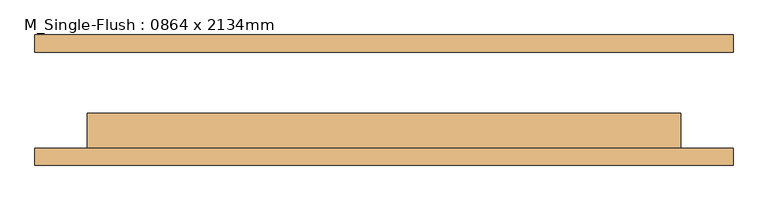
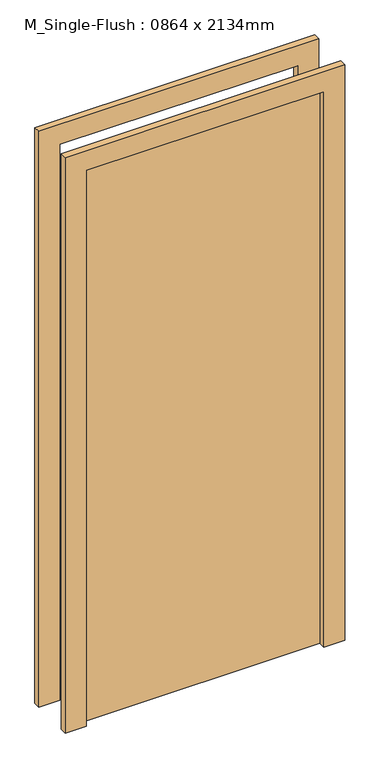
"""IFC4 building model written with IfcOpenShell, lengths in millimetres: door geometry, M_Single-Flush : 0864 x 2134mm."""

from ifc_helpers import new_model, si_unit, frame, origin, origin_with_axes, place, context, project, spatial, polyline, outline, extrude, source, transform, mapped, element, save


def m_single_flush_0864_x_2134mm_717f285b(model_context):
    return source(origin(), model_context, "Body", "SweptSolid", [
        extrude(outline(polyline([(2210.0, -508.0), (0.0, -508.0), (0.0, -432.0), (2134.0, -432.0), (2134.0, 432.0), (0.0, 432.0), (0.0, 508.0), (2210.0, 508.0), (2210.0, -508.0)])), frame((0.0, -95.0, 0.0), z_axis=(0.0, 1.0, 0.0), x_axis=(0.0, 0.0, 1.0)), (0.0, 0.0, 1.0), 25.0),
        extrude(outline(polyline([(2210.0, 508.0), (2210.0, -508.0), (0.0, -508.0), (0.0, -432.0), (2134.0, -432.0), (2134.0, 432.0), (0.0, 432.0), (0.0, 508.0), (2210.0, 508.0)])), frame((0.0, 70.0, 0.0), z_axis=(0.0, 1.0, 0.0), x_axis=(0.0, 0.0, 1.0)), (0.0, 0.0, 1.0), 25.0),
        extrude(outline(polyline([(432.0, -19.0), (432.0, -70.0), (-432.0, -70.0), (-432.0, -19.0), (432.0, -19.0)])), origin_with_axes(), (0.0, 0.0, 1.0), 2134.0),
    ])


if __name__ == "__main__":
    model = new_model("IFC4")
    model_context = context("Model", 3, world=origin())
    ifc_project = project(units=[si_unit("LENGTHUNIT", "METRE", prefix="MILLI")], contexts=[model_context])
    site = spatial("IfcSite", under=ifc_project)
    building = spatial("IfcBuilding", under=site)
    placement = place(None, origin())
    m_single_flush_0864_x_2134mm_shape = m_single_flush_0864_x_2134mm_717f285b(model_context)
    element("IfcDoor", 1, ObjectType="M_Single-Flush : 0864 x 2134mm", at=placement, inside=building, context=model_context, shape_type="MappedRepresentation", body=[
        mapped(m_single_flush_0864_x_2134mm_shape, transform((0.0, 0.0, 0.0), x_axis=(1.0, 0.0, 0.0), y_axis=(0.0, 1.0, 0.0), z_axis=(0.0, 0.0, 1.0))),
    ])
    save(model, "model.ifc")
